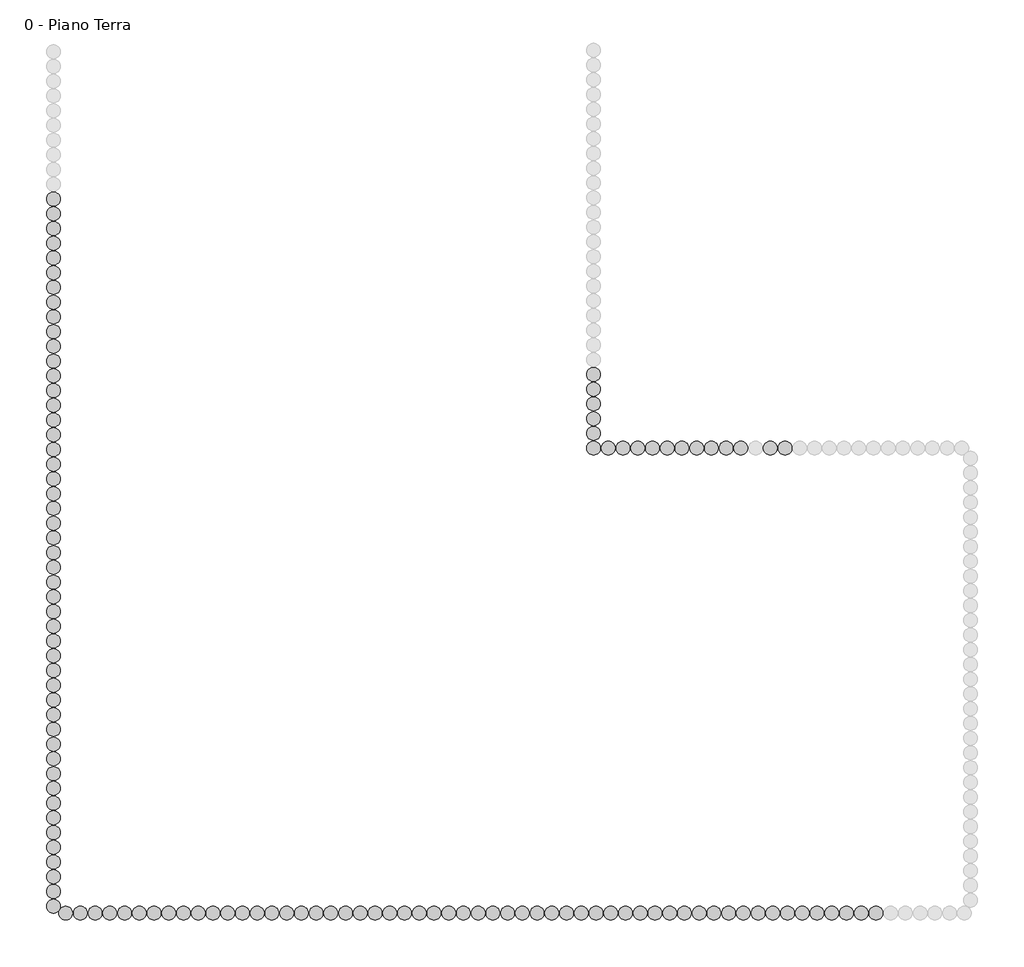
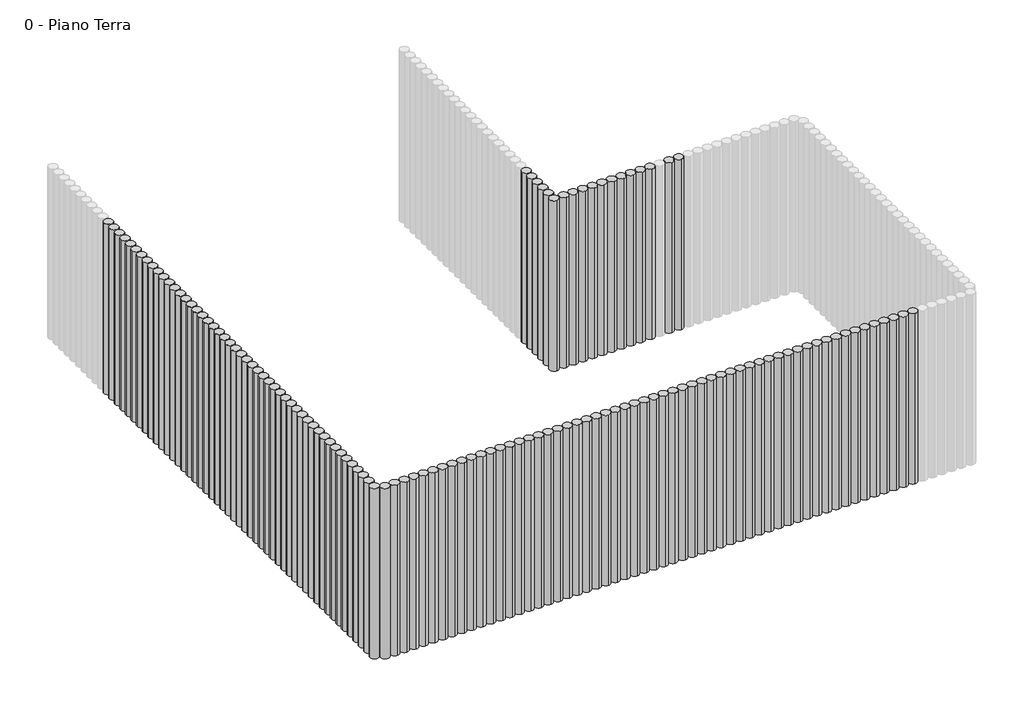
# One storey, part 1 of 2: 123 columns.
"""IFC4 building model written with IfcOpenShell, lengths in millimetres."""

from ifc_helpers import new_model, si_unit, origin, place, context, project, spatial, transform, mapped, element, save
from components import eng_piling_eng_piling_70ba4476

model = new_model("IFC4")

# Units and contexts
model_context = context("Model", 3, world=origin())
ifc_project = project(units=[si_unit("LENGTHUNIT", "METRE", prefix="MILLI")], contexts=[model_context])

# Site, building, storey
site = spatial("IfcSite", under=ifc_project)
building = spatial("IfcBuilding", under=site)
storey = spatial("IfcBuildingStorey", under=building, Name="0 - Piano Terra", Elevation=0.0)

# Columns
placement = place(None, origin())
eng_piling_eng_piling_shape = eng_piling_eng_piling_70ba4476(model_context)
element("IfcColumn", 1, ObjectType="ENG - Piling : ENG - Piling", at=placement, inside=storey, context=model_context, shape_type="MappedRepresentation", body=[
    mapped(eng_piling_eng_piling_shape, transform((-18007.5089367, -15645.7761472, 0.0), x_axis=(1.0, 0.0, 0.0), y_axis=(0.0, 1.0, 0.0), z_axis=(0.0, 0.0, 1.0))),
])
element("IfcColumn", 2, ObjectType="ENG - Piling : ENG - Piling", at=placement, inside=storey, context=model_context, shape_type="MappedRepresentation", body=[
    mapped(eng_piling_eng_piling_shape, transform((-17742.5089367, -15795.7761472, 0.0), x_axis=(1.0, 0.0, 0.0), y_axis=(0.0, 1.0, 0.0), z_axis=(0.0, 0.0, 1.0))),
])
element("IfcColumn", 3, ObjectType="ENG - Piling : ENG - Piling", at=placement, inside=storey, context=model_context, shape_type="MappedRepresentation", body=[
    mapped(eng_piling_eng_piling_shape, transform((-18007.5089367, -15325.7761472, 0.0), x_axis=(1.0, 0.0, 0.0), y_axis=(0.0, 1.0, 0.0), z_axis=(0.0, 0.0, 1.0))),
])
element("IfcColumn", 4, ObjectType="ENG - Piling : ENG - Piling", at=placement, inside=storey, context=model_context, shape_type="MappedRepresentation", body=[
    mapped(eng_piling_eng_piling_shape, transform((-18007.5089367, -15005.7761472, 0.0), x_axis=(1.0, 0.0, 0.0), y_axis=(0.0, 1.0, 0.0), z_axis=(0.0, 0.0, 1.0))),
])
element("IfcColumn", 5, ObjectType="ENG - Piling : ENG - Piling", at=placement, inside=storey, context=model_context, shape_type="MappedRepresentation", body=[
    mapped(eng_piling_eng_piling_shape, transform((-18007.5089367, -14685.7761472, 0.0), x_axis=(1.0, 0.0, 0.0), y_axis=(0.0, 1.0, 0.0), z_axis=(0.0, 0.0, 1.0))),
])
element("IfcColumn", 6, ObjectType="ENG - Piling : ENG - Piling", at=placement, inside=storey, context=model_context, shape_type="MappedRepresentation", body=[
    mapped(eng_piling_eng_piling_shape, transform((-18007.5089367, -14365.7761472, 0.0), x_axis=(1.0, 0.0, 0.0), y_axis=(0.0, 1.0, 0.0), z_axis=(0.0, 0.0, 1.0))),
])
element("IfcColumn", 7, ObjectType="ENG - Piling : ENG - Piling", at=placement, inside=storey, context=model_context, shape_type="MappedRepresentation", body=[
    mapped(eng_piling_eng_piling_shape, transform((-18007.5089367, -14045.7761472, 0.0), x_axis=(1.0, 0.0, 0.0), y_axis=(0.0, 1.0, 0.0), z_axis=(0.0, 0.0, 1.0))),
])
element("IfcColumn", 8, ObjectType="ENG - Piling : ENG - Piling", at=placement, inside=storey, context=model_context, shape_type="MappedRepresentation", body=[
    mapped(eng_piling_eng_piling_shape, transform((-18007.5089367, -13725.7761472, 0.0), x_axis=(1.0, 0.0, 0.0), y_axis=(0.0, 1.0, 0.0), z_axis=(0.0, 0.0, 1.0))),
])
element("IfcColumn", 9, ObjectType="ENG - Piling : ENG - Piling", at=placement, inside=storey, context=model_context, shape_type="MappedRepresentation", body=[
    mapped(eng_piling_eng_piling_shape, transform((-18007.5089367, -13405.7761472, 0.0), x_axis=(1.0, 0.0, 0.0), y_axis=(0.0, 1.0, 0.0), z_axis=(0.0, 0.0, 1.0))),
])
element("IfcColumn", 10, ObjectType="ENG - Piling : ENG - Piling", at=placement, inside=storey, context=model_context, shape_type="MappedRepresentation", body=[
    mapped(eng_piling_eng_piling_shape, transform((-18007.5089367, -13085.7761472, 0.0), x_axis=(1.0, 0.0, 0.0), y_axis=(0.0, 1.0, 0.0), z_axis=(0.0, 0.0, 1.0))),
])
element("IfcColumn", 11, ObjectType="ENG - Piling : ENG - Piling", at=placement, inside=storey, context=model_context, shape_type="MappedRepresentation", body=[
    mapped(eng_piling_eng_piling_shape, transform((-18007.5089367, -12765.7761472, 0.0), x_axis=(1.0, 0.0, 0.0), y_axis=(0.0, 1.0, 0.0), z_axis=(0.0, 0.0, 1.0))),
])
element("IfcColumn", 12, ObjectType="ENG - Piling : ENG - Piling", at=placement, inside=storey, context=model_context, shape_type="MappedRepresentation", body=[
    mapped(eng_piling_eng_piling_shape, transform((-18007.5089367, -12445.7761472, 0.0), x_axis=(1.0, 0.0, 0.0), y_axis=(0.0, 1.0, 0.0), z_axis=(0.0, 0.0, 1.0))),
])
element("IfcColumn", 13, ObjectType="ENG - Piling : ENG - Piling", at=placement, inside=storey, context=model_context, shape_type="MappedRepresentation", body=[
    mapped(eng_piling_eng_piling_shape, transform((-18007.5089367, -12125.7761472, 0.0), x_axis=(1.0, 0.0, 0.0), y_axis=(0.0, 1.0, 0.0), z_axis=(0.0, 0.0, 1.0))),
])
element("IfcColumn", 14, ObjectType="ENG - Piling : ENG - Piling", at=placement, inside=storey, context=model_context, shape_type="MappedRepresentation", body=[
    mapped(eng_piling_eng_piling_shape, transform((-18007.5089367, -11805.7761472, 0.0), x_axis=(1.0, 0.0, 0.0), y_axis=(0.0, 1.0, 0.0), z_axis=(0.0, 0.0, 1.0))),
])
element("IfcColumn", 15, ObjectType="ENG - Piling : ENG - Piling", at=placement, inside=storey, context=model_context, shape_type="MappedRepresentation", body=[
    mapped(eng_piling_eng_piling_shape, transform((-18007.5089367, -11485.7761472, 0.0), x_axis=(1.0, 0.0, 0.0), y_axis=(0.0, 1.0, 0.0), z_axis=(0.0, 0.0, 1.0))),
])
element("IfcColumn", 16, ObjectType="ENG - Piling : ENG - Piling", at=placement, inside=storey, context=model_context, shape_type="MappedRepresentation", body=[
    mapped(eng_piling_eng_piling_shape, transform((-18007.5089367, -11165.7761472, 0.0), x_axis=(1.0, 0.0, 0.0), y_axis=(0.0, 1.0, 0.0), z_axis=(0.0, 0.0, 1.0))),
])
element("IfcColumn", 17, ObjectType="ENG - Piling : ENG - Piling", at=placement, inside=storey, context=model_context, shape_type="MappedRepresentation", body=[
    mapped(eng_piling_eng_piling_shape, transform((-18007.5089367, -10845.7761472, 0.0), x_axis=(1.0, 0.0, 0.0), y_axis=(0.0, 1.0, 0.0), z_axis=(0.0, 0.0, 1.0))),
])
element("IfcColumn", 18, ObjectType="ENG - Piling : ENG - Piling", at=placement, inside=storey, context=model_context, shape_type="MappedRepresentation", body=[
    mapped(eng_piling_eng_piling_shape, transform((-18007.5089367, -10525.7761472, 0.0), x_axis=(1.0, 0.0, 0.0), y_axis=(0.0, 1.0, 0.0), z_axis=(0.0, 0.0, 1.0))),
])
element("IfcColumn", 19, ObjectType="ENG - Piling : ENG - Piling", at=placement, inside=storey, context=model_context, shape_type="MappedRepresentation", body=[
    mapped(eng_piling_eng_piling_shape, transform((-18007.5089367, -10205.7761472, 0.0), x_axis=(1.0, 0.0, 0.0), y_axis=(0.0, 1.0, 0.0), z_axis=(0.0, 0.0, 1.0))),
])
element("IfcColumn", 20, ObjectType="ENG - Piling : ENG - Piling", at=placement, inside=storey, context=model_context, shape_type="MappedRepresentation", body=[
    mapped(eng_piling_eng_piling_shape, transform((-18007.5089367, -9885.7761472, 0.0), x_axis=(1.0, 0.0, 0.0), y_axis=(0.0, 1.0, 0.0), z_axis=(0.0, 0.0, 1.0))),
])
element("IfcColumn", 21, ObjectType="ENG - Piling : ENG - Piling", at=placement, inside=storey, context=model_context, shape_type="MappedRepresentation", body=[
    mapped(eng_piling_eng_piling_shape, transform((-18007.5089367, -9565.7761472, 0.0), x_axis=(1.0, 0.0, 0.0), y_axis=(0.0, 1.0, 0.0), z_axis=(0.0, 0.0, 1.0))),
])
element("IfcColumn", 22, ObjectType="ENG - Piling : ENG - Piling", at=placement, inside=storey, context=model_context, shape_type="MappedRepresentation", body=[
    mapped(eng_piling_eng_piling_shape, transform((-18007.5089367, -9245.7761472, 0.0), x_axis=(1.0, 0.0, 0.0), y_axis=(0.0, 1.0, 0.0), z_axis=(0.0, 0.0, 1.0))),
])
element("IfcColumn", 23, ObjectType="ENG - Piling : ENG - Piling", at=placement, inside=storey, context=model_context, shape_type="MappedRepresentation", body=[
    mapped(eng_piling_eng_piling_shape, transform((-18007.5089367, -8925.7761472, 0.0), x_axis=(1.0, 0.0, 0.0), y_axis=(0.0, 1.0, 0.0), z_axis=(0.0, 0.0, 1.0))),
])
element("IfcColumn", 24, ObjectType="ENG - Piling : ENG - Piling", at=placement, inside=storey, context=model_context, shape_type="MappedRepresentation", body=[
    mapped(eng_piling_eng_piling_shape, transform((-18007.5089367, -8605.7761472, 0.0), x_axis=(1.0, 0.0, 0.0), y_axis=(0.0, 1.0, 0.0), z_axis=(0.0, 0.0, 1.0))),
])
element("IfcColumn", 25, ObjectType="ENG - Piling : ENG - Piling", at=placement, inside=storey, context=model_context, shape_type="MappedRepresentation", body=[
    mapped(eng_piling_eng_piling_shape, transform((-18007.5089367, -8285.7761472, 0.0), x_axis=(1.0, 0.0, 0.0), y_axis=(0.0, 1.0, 0.0), z_axis=(0.0, 0.0, 1.0))),
])
element("IfcColumn", 26, ObjectType="ENG - Piling : ENG - Piling", at=placement, inside=storey, context=model_context, shape_type="MappedRepresentation", body=[
    mapped(eng_piling_eng_piling_shape, transform((-18007.5089367, -7965.7761472, 0.0), x_axis=(1.0, 0.0, 0.0), y_axis=(0.0, 1.0, 0.0), z_axis=(0.0, 0.0, 1.0))),
])
element("IfcColumn", 27, ObjectType="ENG - Piling : ENG - Piling", at=placement, inside=storey, context=model_context, shape_type="MappedRepresentation", body=[
    mapped(eng_piling_eng_piling_shape, transform((-18007.5089367, -7645.7761472, 0.0), x_axis=(1.0, 0.0, 0.0), y_axis=(0.0, 1.0, 0.0), z_axis=(0.0, 0.0, 1.0))),
])
element("IfcColumn", 28, ObjectType="ENG - Piling : ENG - Piling", at=placement, inside=storey, context=model_context, shape_type="MappedRepresentation", body=[
    mapped(eng_piling_eng_piling_shape, transform((-18007.5089367, -7325.7761472, 0.0), x_axis=(1.0, 0.0, 0.0), y_axis=(0.0, 1.0, 0.0), z_axis=(0.0, 0.0, 1.0))),
])
element("IfcColumn", 29, ObjectType="ENG - Piling : ENG - Piling", at=placement, inside=storey, context=model_context, shape_type="MappedRepresentation", body=[
    mapped(eng_piling_eng_piling_shape, transform((-18007.5089367, -7005.7761472, 0.0), x_axis=(1.0, 0.0, 0.0), y_axis=(0.0, 1.0, 0.0), z_axis=(0.0, 0.0, 1.0))),
])
element("IfcColumn", 30, ObjectType="ENG - Piling : ENG - Piling", at=placement, inside=storey, context=model_context, shape_type="MappedRepresentation", body=[
    mapped(eng_piling_eng_piling_shape, transform((-18007.5089367, -6685.7761472, 0.0), x_axis=(1.0, 0.0, 0.0), y_axis=(0.0, 1.0, 0.0), z_axis=(0.0, 0.0, 1.0))),
])
element("IfcColumn", 31, ObjectType="ENG - Piling : ENG - Piling", at=placement, inside=storey, context=model_context, shape_type="MappedRepresentation", body=[
    mapped(eng_piling_eng_piling_shape, transform((-18007.5089367, -6365.7761472, 0.0), x_axis=(1.0, 0.0, 0.0), y_axis=(0.0, 1.0, 0.0), z_axis=(0.0, 0.0, 1.0))),
])
element("IfcColumn", 32, ObjectType="ENG - Piling : ENG - Piling", at=placement, inside=storey, context=model_context, shape_type="MappedRepresentation", body=[
    mapped(eng_piling_eng_piling_shape, transform((-18007.5089367, -6045.7761472, 0.0), x_axis=(1.0, 0.0, 0.0), y_axis=(0.0, 1.0, 0.0), z_axis=(0.0, 0.0, 1.0))),
])
element("IfcColumn", 33, ObjectType="ENG - Piling : ENG - Piling", at=placement, inside=storey, context=model_context, shape_type="MappedRepresentation", body=[
    mapped(eng_piling_eng_piling_shape, transform((-18007.5089367, -5725.7761472, 0.0), x_axis=(1.0, 0.0, 0.0), y_axis=(0.0, 1.0, 0.0), z_axis=(0.0, 0.0, 1.0))),
])
element("IfcColumn", 34, ObjectType="ENG - Piling : ENG - Piling", at=placement, inside=storey, context=model_context, shape_type="MappedRepresentation", body=[
    mapped(eng_piling_eng_piling_shape, transform((-18007.5089367, -5405.7761472, 0.0), x_axis=(1.0, 0.0, 0.0), y_axis=(0.0, 1.0, 0.0), z_axis=(0.0, 0.0, 1.0))),
])
element("IfcColumn", 35, ObjectType="ENG - Piling : ENG - Piling", at=placement, inside=storey, context=model_context, shape_type="MappedRepresentation", body=[
    mapped(eng_piling_eng_piling_shape, transform((-18007.5089367, -5085.7761472, 0.0), x_axis=(1.0, 0.0, 0.0), y_axis=(0.0, 1.0, 0.0), z_axis=(0.0, 0.0, 1.0))),
])
element("IfcColumn", 36, ObjectType="ENG - Piling : ENG - Piling", at=placement, inside=storey, context=model_context, shape_type="MappedRepresentation", body=[
    mapped(eng_piling_eng_piling_shape, transform((-18007.5089367, -4765.7761472, 0.0), x_axis=(1.0, 0.0, 0.0), y_axis=(0.0, 1.0, 0.0), z_axis=(0.0, 0.0, 1.0))),
])
element("IfcColumn", 37, ObjectType="ENG - Piling : ENG - Piling", at=placement, inside=storey, context=model_context, shape_type="MappedRepresentation", body=[
    mapped(eng_piling_eng_piling_shape, transform((-18007.5089367, -4445.7761472, 0.0), x_axis=(1.0, 0.0, 0.0), y_axis=(0.0, 1.0, 0.0), z_axis=(0.0, 0.0, 1.0))),
])
element("IfcColumn", 38, ObjectType="ENG - Piling : ENG - Piling", at=placement, inside=storey, context=model_context, shape_type="MappedRepresentation", body=[
    mapped(eng_piling_eng_piling_shape, transform((-18007.5089367, -4125.7761472, 0.0), x_axis=(1.0, 0.0, 0.0), y_axis=(0.0, 1.0, 0.0), z_axis=(0.0, 0.0, 1.0))),
])
element("IfcColumn", 39, ObjectType="ENG - Piling : ENG - Piling", at=placement, inside=storey, context=model_context, shape_type="MappedRepresentation", body=[
    mapped(eng_piling_eng_piling_shape, transform((-18007.5089367, -3805.7761472, 0.0), x_axis=(1.0, 0.0, 0.0), y_axis=(0.0, 1.0, 0.0), z_axis=(0.0, 0.0, 1.0))),
])
element("IfcColumn", 40, ObjectType="ENG - Piling : ENG - Piling", at=placement, inside=storey, context=model_context, shape_type="MappedRepresentation", body=[
    mapped(eng_piling_eng_piling_shape, transform((-18007.5089367, -3485.7761472, 0.0), x_axis=(1.0, 0.0, 0.0), y_axis=(0.0, 1.0, 0.0), z_axis=(0.0, 0.0, 1.0))),
])
element("IfcColumn", 41, ObjectType="ENG - Piling : ENG - Piling", at=placement, inside=storey, context=model_context, shape_type="MappedRepresentation", body=[
    mapped(eng_piling_eng_piling_shape, transform((-18007.5089367, -3165.7761472, 0.0), x_axis=(1.0, 0.0, 0.0), y_axis=(0.0, 1.0, 0.0), z_axis=(0.0, 0.0, 1.0))),
])
element("IfcColumn", 42, ObjectType="ENG - Piling : ENG - Piling", at=placement, inside=storey, context=model_context, shape_type="MappedRepresentation", body=[
    mapped(eng_piling_eng_piling_shape, transform((-18007.5089367, -2845.7761472, 0.0), x_axis=(1.0, 0.0, 0.0), y_axis=(0.0, 1.0, 0.0), z_axis=(0.0, 0.0, 1.0))),
])
element("IfcColumn", 43, ObjectType="ENG - Piling : ENG - Piling", at=placement, inside=storey, context=model_context, shape_type="MappedRepresentation", body=[
    mapped(eng_piling_eng_piling_shape, transform((-18007.5089367, -2525.7761472, 0.0), x_axis=(1.0, 0.0, 0.0), y_axis=(0.0, 1.0, 0.0), z_axis=(0.0, 0.0, 1.0))),
])
element("IfcColumn", 44, ObjectType="ENG - Piling : ENG - Piling", at=placement, inside=storey, context=model_context, shape_type="MappedRepresentation", body=[
    mapped(eng_piling_eng_piling_shape, transform((-18007.5089367, -2205.7761472, 0.0), x_axis=(1.0, 0.0, 0.0), y_axis=(0.0, 1.0, 0.0), z_axis=(0.0, 0.0, 1.0))),
])
element("IfcColumn", 45, ObjectType="ENG - Piling : ENG - Piling", at=placement, inside=storey, context=model_context, shape_type="MappedRepresentation", body=[
    mapped(eng_piling_eng_piling_shape, transform((-18007.5089367, -1885.7761472, 0.0), x_axis=(1.0, 0.0, 0.0), y_axis=(0.0, 1.0, 0.0), z_axis=(0.0, 0.0, 1.0))),
])
element("IfcColumn", 46, ObjectType="ENG - Piling : ENG - Piling", at=placement, inside=storey, context=model_context, shape_type="MappedRepresentation", body=[
    mapped(eng_piling_eng_piling_shape, transform((-18007.5089367, -1565.7761472, 0.0), x_axis=(1.0, 0.0, 0.0), y_axis=(0.0, 1.0, 0.0), z_axis=(0.0, 0.0, 1.0))),
])
element("IfcColumn", 47, ObjectType="ENG - Piling : ENG - Piling", at=placement, inside=storey, context=model_context, shape_type="MappedRepresentation", body=[
    mapped(eng_piling_eng_piling_shape, transform((-18007.5089367, -1245.7761472, 0.0), x_axis=(1.0, 0.0, 0.0), y_axis=(0.0, 1.0, 0.0), z_axis=(0.0, 0.0, 1.0))),
])
element("IfcColumn", 48, ObjectType="ENG - Piling : ENG - Piling", at=placement, inside=storey, context=model_context, shape_type="MappedRepresentation", body=[
    mapped(eng_piling_eng_piling_shape, transform((-18007.5089367, -925.7761472, 0.0), x_axis=(1.0, 0.0, 0.0), y_axis=(0.0, 1.0, 0.0), z_axis=(0.0, 0.0, 1.0))),
])
element("IfcColumn", 49, ObjectType="ENG - Piling : ENG - Piling", at=placement, inside=storey, context=model_context, shape_type="MappedRepresentation", body=[
    mapped(eng_piling_eng_piling_shape, transform((-18007.5089367, -605.7761472, 0.0), x_axis=(1.0, 0.0, 0.0), y_axis=(0.0, 1.0, 0.0), z_axis=(0.0, 0.0, 1.0))),
])
element("IfcColumn", 50, ObjectType="ENG - Piling : ENG - Piling", at=placement, inside=storey, context=model_context, shape_type="MappedRepresentation", body=[
    mapped(eng_piling_eng_piling_shape, transform((-18007.5089367, -285.7761472, 0.0), x_axis=(1.0, 0.0, 0.0), y_axis=(0.0, 1.0, 0.0), z_axis=(0.0, 0.0, 1.0))),
])
element("IfcColumn", 51, ObjectType="ENG - Piling : ENG - Piling", at=placement, inside=storey, context=model_context, shape_type="MappedRepresentation", body=[
    mapped(eng_piling_eng_piling_shape, transform((-142.5089367, -15795.7761472, 0.0), x_axis=(0.0, 1.0000000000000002, 0.0), y_axis=(-1.0000000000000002, 0.0, 0.0), z_axis=(0.0, 0.0, 1.0))),
])
element("IfcColumn", 52, ObjectType="ENG - Piling : ENG - Piling", at=placement, inside=storey, context=model_context, shape_type="MappedRepresentation", body=[
    mapped(eng_piling_eng_piling_shape, transform((-462.5089367, -15795.7761472, 0.0), x_axis=(0.0, 1.0000000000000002, 0.0), y_axis=(-1.0000000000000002, 0.0, 0.0), z_axis=(0.0, 0.0, 1.0))),
])
element("IfcColumn", 53, ObjectType="ENG - Piling : ENG - Piling", at=placement, inside=storey, context=model_context, shape_type="MappedRepresentation", body=[
    mapped(eng_piling_eng_piling_shape, transform((-782.5089367, -15795.7761472, 0.0), x_axis=(0.0, 1.0000000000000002, 0.0), y_axis=(-1.0000000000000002, 0.0, 0.0), z_axis=(0.0, 0.0, 1.0))),
])
element("IfcColumn", 54, ObjectType="ENG - Piling : ENG - Piling", at=placement, inside=storey, context=model_context, shape_type="MappedRepresentation", body=[
    mapped(eng_piling_eng_piling_shape, transform((-1102.5089367, -15795.7761472, 0.0), x_axis=(0.0, 1.0000000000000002, 0.0), y_axis=(-1.0000000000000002, 0.0, 0.0), z_axis=(0.0, 0.0, 1.0))),
])
element("IfcColumn", 55, ObjectType="ENG - Piling : ENG - Piling", at=placement, inside=storey, context=model_context, shape_type="MappedRepresentation", body=[
    mapped(eng_piling_eng_piling_shape, transform((-1422.5089367, -15795.7761472, 0.0), x_axis=(0.0, 1.0000000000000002, 0.0), y_axis=(-1.0000000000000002, 0.0, 0.0), z_axis=(0.0, 0.0, 1.0))),
])
element("IfcColumn", 56, ObjectType="ENG - Piling : ENG - Piling", at=placement, inside=storey, context=model_context, shape_type="MappedRepresentation", body=[
    mapped(eng_piling_eng_piling_shape, transform((-1742.5089367, -15795.7761472, 0.0), x_axis=(0.0, 1.0000000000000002, 0.0), y_axis=(-1.0000000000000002, 0.0, 0.0), z_axis=(0.0, 0.0, 1.0))),
])
element("IfcColumn", 57, ObjectType="ENG - Piling : ENG - Piling", at=placement, inside=storey, context=model_context, shape_type="MappedRepresentation", body=[
    mapped(eng_piling_eng_piling_shape, transform((-2062.5089367, -15795.7761472, 0.0), x_axis=(0.0, 1.0000000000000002, 0.0), y_axis=(-1.0000000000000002, 0.0, 0.0), z_axis=(0.0, 0.0, 1.0))),
])
element("IfcColumn", 58, ObjectType="ENG - Piling : ENG - Piling", at=placement, inside=storey, context=model_context, shape_type="MappedRepresentation", body=[
    mapped(eng_piling_eng_piling_shape, transform((-2382.5089367, -15795.7761472, 0.0), x_axis=(0.0, 1.0000000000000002, 0.0), y_axis=(-1.0000000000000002, 0.0, 0.0), z_axis=(0.0, 0.0, 1.0))),
])
element("IfcColumn", 59, ObjectType="ENG - Piling : ENG - Piling", at=placement, inside=storey, context=model_context, shape_type="MappedRepresentation", body=[
    mapped(eng_piling_eng_piling_shape, transform((-2702.5089367, -15795.7761472, 0.0), x_axis=(0.0, 1.0000000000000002, 0.0), y_axis=(-1.0000000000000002, 0.0, 0.0), z_axis=(0.0, 0.0, 1.0))),
])
element("IfcColumn", 60, ObjectType="ENG - Piling : ENG - Piling", at=placement, inside=storey, context=model_context, shape_type="MappedRepresentation", body=[
    mapped(eng_piling_eng_piling_shape, transform((-3022.5089367, -15795.7761472, 0.0), x_axis=(0.0, 1.0000000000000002, 0.0), y_axis=(-1.0000000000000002, 0.0, 0.0), z_axis=(0.0, 0.0, 1.0))),
])
element("IfcColumn", 61, ObjectType="ENG - Piling : ENG - Piling", at=placement, inside=storey, context=model_context, shape_type="MappedRepresentation", body=[
    mapped(eng_piling_eng_piling_shape, transform((-3342.5089367, -15795.7761472, 0.0), x_axis=(0.0, 1.0000000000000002, 0.0), y_axis=(-1.0000000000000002, 0.0, 0.0), z_axis=(0.0, 0.0, 1.0))),
])
element("IfcColumn", 62, ObjectType="ENG - Piling : ENG - Piling", at=placement, inside=storey, context=model_context, shape_type="MappedRepresentation", body=[
    mapped(eng_piling_eng_piling_shape, transform((-3662.5089367, -15795.7761472, 0.0), x_axis=(0.0, 1.0000000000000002, 0.0), y_axis=(-1.0000000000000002, 0.0, 0.0), z_axis=(0.0, 0.0, 1.0))),
])
element("IfcColumn", 63, ObjectType="ENG - Piling : ENG - Piling", at=placement, inside=storey, context=model_context, shape_type="MappedRepresentation", body=[
    mapped(eng_piling_eng_piling_shape, transform((-3982.5089367, -15795.7761472, 0.0), x_axis=(0.0, 1.0000000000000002, 0.0), y_axis=(-1.0000000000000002, 0.0, 0.0), z_axis=(0.0, 0.0, 1.0))),
])
element("IfcColumn", 64, ObjectType="ENG - Piling : ENG - Piling", at=placement, inside=storey, context=model_context, shape_type="MappedRepresentation", body=[
    mapped(eng_piling_eng_piling_shape, transform((-4302.5089367, -15795.7761472, 0.0), x_axis=(0.0, 1.0000000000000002, 0.0), y_axis=(-1.0000000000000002, 0.0, 0.0), z_axis=(0.0, 0.0, 1.0))),
])
element("IfcColumn", 65, ObjectType="ENG - Piling : ENG - Piling", at=placement, inside=storey, context=model_context, shape_type="MappedRepresentation", body=[
    mapped(eng_piling_eng_piling_shape, transform((-4622.5089367, -15795.7761472, 0.0), x_axis=(0.0, 1.0000000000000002, 0.0), y_axis=(-1.0000000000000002, 0.0, 0.0), z_axis=(0.0, 0.0, 1.0))),
])
element("IfcColumn", 66, ObjectType="ENG - Piling : ENG - Piling", at=placement, inside=storey, context=model_context, shape_type="MappedRepresentation", body=[
    mapped(eng_piling_eng_piling_shape, transform((-4942.5089367, -15795.7761472, 0.0), x_axis=(0.0, 1.0000000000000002, 0.0), y_axis=(-1.0000000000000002, 0.0, 0.0), z_axis=(0.0, 0.0, 1.0))),
])
element("IfcColumn", 67, ObjectType="ENG - Piling : ENG - Piling", at=placement, inside=storey, context=model_context, shape_type="MappedRepresentation", body=[
    mapped(eng_piling_eng_piling_shape, transform((-5262.5089367, -15795.7761472, 0.0), x_axis=(0.0, 1.0000000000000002, 0.0), y_axis=(-1.0000000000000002, 0.0, 0.0), z_axis=(0.0, 0.0, 1.0))),
])
element("IfcColumn", 68, ObjectType="ENG - Piling : ENG - Piling", at=placement, inside=storey, context=model_context, shape_type="MappedRepresentation", body=[
    mapped(eng_piling_eng_piling_shape, transform((-5582.5089367, -15795.7761472, 0.0), x_axis=(0.0, 1.0000000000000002, 0.0), y_axis=(-1.0000000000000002, 0.0, 0.0), z_axis=(0.0, 0.0, 1.0))),
])
element("IfcColumn", 69, ObjectType="ENG - Piling : ENG - Piling", at=placement, inside=storey, context=model_context, shape_type="MappedRepresentation", body=[
    mapped(eng_piling_eng_piling_shape, transform((-5902.5089367, -15795.7761472, 0.0), x_axis=(0.0, 1.0000000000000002, 0.0), y_axis=(-1.0000000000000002, 0.0, 0.0), z_axis=(0.0, 0.0, 1.0))),
])
element("IfcColumn", 70, ObjectType="ENG - Piling : ENG - Piling", at=placement, inside=storey, context=model_context, shape_type="MappedRepresentation", body=[
    mapped(eng_piling_eng_piling_shape, transform((-6222.5089367, -15795.7761472, 0.0), x_axis=(0.0, 1.0000000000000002, 0.0), y_axis=(-1.0000000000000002, 0.0, 0.0), z_axis=(0.0, 0.0, 1.0))),
])
element("IfcColumn", 71, ObjectType="ENG - Piling : ENG - Piling", at=placement, inside=storey, context=model_context, shape_type="MappedRepresentation", body=[
    mapped(eng_piling_eng_piling_shape, transform((-6542.5089367, -15795.7761472, 0.0), x_axis=(0.0, 1.0000000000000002, 0.0), y_axis=(-1.0000000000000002, 0.0, 0.0), z_axis=(0.0, 0.0, 1.0))),
])
element("IfcColumn", 72, ObjectType="ENG - Piling : ENG - Piling", at=placement, inside=storey, context=model_context, shape_type="MappedRepresentation", body=[
    mapped(eng_piling_eng_piling_shape, transform((-6862.5089367, -15795.7761472, 0.0), x_axis=(0.0, 1.0000000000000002, 0.0), y_axis=(-1.0000000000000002, 0.0, 0.0), z_axis=(0.0, 0.0, 1.0))),
])
element("IfcColumn", 73, ObjectType="ENG - Piling : ENG - Piling", at=placement, inside=storey, context=model_context, shape_type="MappedRepresentation", body=[
    mapped(eng_piling_eng_piling_shape, transform((-7182.5089367, -15795.7761472, 0.0), x_axis=(0.0, 1.0000000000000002, 0.0), y_axis=(-1.0000000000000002, 0.0, 0.0), z_axis=(0.0, 0.0, 1.0))),
])
element("IfcColumn", 74, ObjectType="ENG - Piling : ENG - Piling", at=placement, inside=storey, context=model_context, shape_type="MappedRepresentation", body=[
    mapped(eng_piling_eng_piling_shape, transform((-7502.5089367, -15795.7761472, 0.0), x_axis=(0.0, 1.0000000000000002, 0.0), y_axis=(-1.0000000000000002, 0.0, 0.0), z_axis=(0.0, 0.0, 1.0))),
])
element("IfcColumn", 75, ObjectType="ENG - Piling : ENG - Piling", at=placement, inside=storey, context=model_context, shape_type="MappedRepresentation", body=[
    mapped(eng_piling_eng_piling_shape, transform((-7822.5089367, -15795.7761472, 0.0), x_axis=(0.0, 1.0000000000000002, 0.0), y_axis=(-1.0000000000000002, 0.0, 0.0), z_axis=(0.0, 0.0, 1.0))),
])
element("IfcColumn", 76, ObjectType="ENG - Piling : ENG - Piling", at=placement, inside=storey, context=model_context, shape_type="MappedRepresentation", body=[
    mapped(eng_piling_eng_piling_shape, transform((-8142.5089367, -15795.7761472, 0.0), x_axis=(0.0, 1.0000000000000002, 0.0), y_axis=(-1.0000000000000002, 0.0, 0.0), z_axis=(0.0, 0.0, 1.0))),
])
element("IfcColumn", 77, ObjectType="ENG - Piling : ENG - Piling", at=placement, inside=storey, context=model_context, shape_type="MappedRepresentation", body=[
    mapped(eng_piling_eng_piling_shape, transform((-8462.5089367, -15795.7761472, 0.0), x_axis=(0.0, 1.0000000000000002, 0.0), y_axis=(-1.0000000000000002, 0.0, 0.0), z_axis=(0.0, 0.0, 1.0))),
])
element("IfcColumn", 78, ObjectType="ENG - Piling : ENG - Piling", at=placement, inside=storey, context=model_context, shape_type="MappedRepresentation", body=[
    mapped(eng_piling_eng_piling_shape, transform((-8782.5089367, -15795.7761472, 0.0), x_axis=(0.0, 1.0000000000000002, 0.0), y_axis=(-1.0000000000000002, 0.0, 0.0), z_axis=(0.0, 0.0, 1.0))),
])
element("IfcColumn", 79, ObjectType="ENG - Piling : ENG - Piling", at=placement, inside=storey, context=model_context, shape_type="MappedRepresentation", body=[
    mapped(eng_piling_eng_piling_shape, transform((-9102.5089367, -15795.7761472, 0.0), x_axis=(0.0, 1.0000000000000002, 0.0), y_axis=(-1.0000000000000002, 0.0, 0.0), z_axis=(0.0, 0.0, 1.0))),
])
element("IfcColumn", 80, ObjectType="ENG - Piling : ENG - Piling", at=placement, inside=storey, context=model_context, shape_type="MappedRepresentation", body=[
    mapped(eng_piling_eng_piling_shape, transform((-9422.5089367, -15795.7761472, 0.0), x_axis=(0.0, 1.0000000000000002, 0.0), y_axis=(-1.0000000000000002, 0.0, 0.0), z_axis=(0.0, 0.0, 1.0))),
])
element("IfcColumn", 81, ObjectType="ENG - Piling : ENG - Piling", at=placement, inside=storey, context=model_context, shape_type="MappedRepresentation", body=[
    mapped(eng_piling_eng_piling_shape, transform((-9742.5089367, -15795.7761472, 0.0), x_axis=(0.0, 1.0000000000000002, 0.0), y_axis=(-1.0000000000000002, 0.0, 0.0), z_axis=(0.0, 0.0, 1.0))),
])
element("IfcColumn", 82, ObjectType="ENG - Piling : ENG - Piling", at=placement, inside=storey, context=model_context, shape_type="MappedRepresentation", body=[
    mapped(eng_piling_eng_piling_shape, transform((-10062.5089367, -15795.7761472, 0.0), x_axis=(0.0, 1.0000000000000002, 0.0), y_axis=(-1.0000000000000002, 0.0, 0.0), z_axis=(0.0, 0.0, 1.0))),
])
element("IfcColumn", 83, ObjectType="ENG - Piling : ENG - Piling", at=placement, inside=storey, context=model_context, shape_type="MappedRepresentation", body=[
    mapped(eng_piling_eng_piling_shape, transform((-10382.5089367, -15795.7761472, 0.0), x_axis=(0.0, 1.0000000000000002, 0.0), y_axis=(-1.0000000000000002, 0.0, 0.0), z_axis=(0.0, 0.0, 1.0))),
])
element("IfcColumn", 84, ObjectType="ENG - Piling : ENG - Piling", at=placement, inside=storey, context=model_context, shape_type="MappedRepresentation", body=[
    mapped(eng_piling_eng_piling_shape, transform((-10702.5089367, -15795.7761472, 0.0), x_axis=(0.0, 1.0000000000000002, 0.0), y_axis=(-1.0000000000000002, 0.0, 0.0), z_axis=(0.0, 0.0, 1.0))),
])
element("IfcColumn", 85, ObjectType="ENG - Piling : ENG - Piling", at=placement, inside=storey, context=model_context, shape_type="MappedRepresentation", body=[
    mapped(eng_piling_eng_piling_shape, transform((-11022.5089367, -15795.7761472, 0.0), x_axis=(0.0, 1.0000000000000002, 0.0), y_axis=(-1.0000000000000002, 0.0, 0.0), z_axis=(0.0, 0.0, 1.0))),
])
element("IfcColumn", 86, ObjectType="ENG - Piling : ENG - Piling", at=placement, inside=storey, context=model_context, shape_type="MappedRepresentation", body=[
    mapped(eng_piling_eng_piling_shape, transform((-11342.5089367, -15795.7761472, 0.0), x_axis=(0.0, 1.0000000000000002, 0.0), y_axis=(-1.0000000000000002, 0.0, 0.0), z_axis=(0.0, 0.0, 1.0))),
])
element("IfcColumn", 87, ObjectType="ENG - Piling : ENG - Piling", at=placement, inside=storey, context=model_context, shape_type="MappedRepresentation", body=[
    mapped(eng_piling_eng_piling_shape, transform((-11662.5089367, -15795.7761472, 0.0), x_axis=(0.0, 1.0000000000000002, 0.0), y_axis=(-1.0000000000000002, 0.0, 0.0), z_axis=(0.0, 0.0, 1.0))),
])
element("IfcColumn", 88, ObjectType="ENG - Piling : ENG - Piling", at=placement, inside=storey, context=model_context, shape_type="MappedRepresentation", body=[
    mapped(eng_piling_eng_piling_shape, transform((-11982.5089367, -15795.7761472, 0.0), x_axis=(0.0, 1.0000000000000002, 0.0), y_axis=(-1.0000000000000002, 0.0, 0.0), z_axis=(0.0, 0.0, 1.0))),
])
element("IfcColumn", 89, ObjectType="ENG - Piling : ENG - Piling", at=placement, inside=storey, context=model_context, shape_type="MappedRepresentation", body=[
    mapped(eng_piling_eng_piling_shape, transform((-12302.5089367, -15795.7761472, 0.0), x_axis=(0.0, 1.0000000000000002, 0.0), y_axis=(-1.0000000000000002, 0.0, 0.0), z_axis=(0.0, 0.0, 1.0))),
])
element("IfcColumn", 90, ObjectType="ENG - Piling : ENG - Piling", at=placement, inside=storey, context=model_context, shape_type="MappedRepresentation", body=[
    mapped(eng_piling_eng_piling_shape, transform((-12622.5089367, -15795.7761472, 0.0), x_axis=(0.0, 1.0000000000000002, 0.0), y_axis=(-1.0000000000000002, 0.0, 0.0), z_axis=(0.0, 0.0, 1.0))),
])
element("IfcColumn", 91, ObjectType="ENG - Piling : ENG - Piling", at=placement, inside=storey, context=model_context, shape_type="MappedRepresentation", body=[
    mapped(eng_piling_eng_piling_shape, transform((-12942.5089367, -15795.7761472, 0.0), x_axis=(0.0, 1.0000000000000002, 0.0), y_axis=(-1.0000000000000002, 0.0, 0.0), z_axis=(0.0, 0.0, 1.0))),
])
element("IfcColumn", 92, ObjectType="ENG - Piling : ENG - Piling", at=placement, inside=storey, context=model_context, shape_type="MappedRepresentation", body=[
    mapped(eng_piling_eng_piling_shape, transform((-13262.5089367, -15795.7761472, 0.0), x_axis=(0.0, 1.0000000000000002, 0.0), y_axis=(-1.0000000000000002, 0.0, 0.0), z_axis=(0.0, 0.0, 1.0))),
])
element("IfcColumn", 93, ObjectType="ENG - Piling : ENG - Piling", at=placement, inside=storey, context=model_context, shape_type="MappedRepresentation", body=[
    mapped(eng_piling_eng_piling_shape, transform((-13582.5089367, -15795.7761472, 0.0), x_axis=(0.0, 1.0000000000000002, 0.0), y_axis=(-1.0000000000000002, 0.0, 0.0), z_axis=(0.0, 0.0, 1.0))),
])
element("IfcColumn", 94, ObjectType="ENG - Piling : ENG - Piling", at=placement, inside=storey, context=model_context, shape_type="MappedRepresentation", body=[
    mapped(eng_piling_eng_piling_shape, transform((-13902.5089367, -15795.7761472, 0.0), x_axis=(0.0, 1.0000000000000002, 0.0), y_axis=(-1.0000000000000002, 0.0, 0.0), z_axis=(0.0, 0.0, 1.0))),
])
element("IfcColumn", 95, ObjectType="ENG - Piling : ENG - Piling", at=placement, inside=storey, context=model_context, shape_type="MappedRepresentation", body=[
    mapped(eng_piling_eng_piling_shape, transform((-14222.5089367, -15795.7761472, 0.0), x_axis=(0.0, 1.0000000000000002, 0.0), y_axis=(-1.0000000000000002, 0.0, 0.0), z_axis=(0.0, 0.0, 1.0))),
])
element("IfcColumn", 96, ObjectType="ENG - Piling : ENG - Piling", at=placement, inside=storey, context=model_context, shape_type="MappedRepresentation", body=[
    mapped(eng_piling_eng_piling_shape, transform((-14542.5089367, -15795.7761472, 0.0), x_axis=(0.0, 1.0000000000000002, 0.0), y_axis=(-1.0000000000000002, 0.0, 0.0), z_axis=(0.0, 0.0, 1.0))),
])
element("IfcColumn", 97, ObjectType="ENG - Piling : ENG - Piling", at=placement, inside=storey, context=model_context, shape_type="MappedRepresentation", body=[
    mapped(eng_piling_eng_piling_shape, transform((-14862.5089367, -15795.7761472, 0.0), x_axis=(0.0, 1.0000000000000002, 0.0), y_axis=(-1.0000000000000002, 0.0, 0.0), z_axis=(0.0, 0.0, 1.0))),
])
element("IfcColumn", 98, ObjectType="ENG - Piling : ENG - Piling", at=placement, inside=storey, context=model_context, shape_type="MappedRepresentation", body=[
    mapped(eng_piling_eng_piling_shape, transform((-15182.5089367, -15795.7761472, 0.0), x_axis=(0.0, 1.0000000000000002, 0.0), y_axis=(-1.0000000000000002, 0.0, 0.0), z_axis=(0.0, 0.0, 1.0))),
])
element("IfcColumn", 99, ObjectType="ENG - Piling : ENG - Piling", at=placement, inside=storey, context=model_context, shape_type="MappedRepresentation", body=[
    mapped(eng_piling_eng_piling_shape, transform((-15502.5089367, -15795.7761472, 0.0), x_axis=(0.0, 1.0000000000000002, 0.0), y_axis=(-1.0000000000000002, 0.0, 0.0), z_axis=(0.0, 0.0, 1.0))),
])
element("IfcColumn", 100, ObjectType="ENG - Piling : ENG - Piling", at=placement, inside=storey, context=model_context, shape_type="MappedRepresentation", body=[
    mapped(eng_piling_eng_piling_shape, transform((-15822.5089367, -15795.7761472, 0.0), x_axis=(0.0, 1.0000000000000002, 0.0), y_axis=(-1.0000000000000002, 0.0, 0.0), z_axis=(0.0, 0.0, 1.0))),
])
element("IfcColumn", 101, ObjectType="ENG - Piling : ENG - Piling", at=placement, inside=storey, context=model_context, shape_type="MappedRepresentation", body=[
    mapped(eng_piling_eng_piling_shape, transform((-16142.5089367, -15795.7761472, 0.0), x_axis=(0.0, 1.0000000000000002, 0.0), y_axis=(-1.0000000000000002, 0.0, 0.0), z_axis=(0.0, 0.0, 1.0))),
])
element("IfcColumn", 102, ObjectType="ENG - Piling : ENG - Piling", at=placement, inside=storey, context=model_context, shape_type="MappedRepresentation", body=[
    mapped(eng_piling_eng_piling_shape, transform((-16462.5089367, -15795.7761472, 0.0), x_axis=(0.0, 1.0000000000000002, 0.0), y_axis=(-1.0000000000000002, 0.0, 0.0), z_axis=(0.0, 0.0, 1.0))),
])
element("IfcColumn", 103, ObjectType="ENG - Piling : ENG - Piling", at=placement, inside=storey, context=model_context, shape_type="MappedRepresentation", body=[
    mapped(eng_piling_eng_piling_shape, transform((-16782.5089367, -15795.7761472, 0.0), x_axis=(0.0, 1.0000000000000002, 0.0), y_axis=(-1.0000000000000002, 0.0, 0.0), z_axis=(0.0, 0.0, 1.0))),
])
element("IfcColumn", 104, ObjectType="ENG - Piling : ENG - Piling", at=placement, inside=storey, context=model_context, shape_type="MappedRepresentation", body=[
    mapped(eng_piling_eng_piling_shape, transform((-17102.5089367, -15795.7761472, 0.0), x_axis=(0.0, 1.0000000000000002, 0.0), y_axis=(-1.0000000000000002, 0.0, 0.0), z_axis=(0.0, 0.0, 1.0))),
])
element("IfcColumn", 105, ObjectType="ENG - Piling : ENG - Piling", at=placement, inside=storey, context=model_context, shape_type="MappedRepresentation", body=[
    mapped(eng_piling_eng_piling_shape, transform((-17422.5089367, -15795.7761472, 0.0), x_axis=(0.0, 1.0000000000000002, 0.0), y_axis=(-1.0000000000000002, 0.0, 0.0), z_axis=(0.0, 0.0, 1.0))),
])
element("IfcColumn", 106, ObjectType="ENG - Piling : ENG - Piling", at=placement, inside=storey, context=model_context, shape_type="MappedRepresentation", body=[
    mapped(eng_piling_eng_piling_shape, transform((-6276.5891533, -5376.0018136, 0.0), x_axis=(1.0, 0.0, 0.0), y_axis=(0.0, 1.0, 0.0), z_axis=(0.0, 0.0, 1.0))),
])
element("IfcColumn", 107, ObjectType="ENG - Piling : ENG - Piling", at=placement, inside=storey, context=model_context, shape_type="MappedRepresentation", body=[
    mapped(eng_piling_eng_piling_shape, transform((-6276.5891533, -5056.0018136, 0.0), x_axis=(1.0, 0.0, 0.0), y_axis=(0.0, 1.0, 0.0), z_axis=(0.0, 0.0, 1.0))),
])
element("IfcColumn", 108, ObjectType="ENG - Piling : ENG - Piling", at=placement, inside=storey, context=model_context, shape_type="MappedRepresentation", body=[
    mapped(eng_piling_eng_piling_shape, transform((-6276.5891533, -4736.0018136, 0.0), x_axis=(1.0, 0.0, 0.0), y_axis=(0.0, 1.0, 0.0), z_axis=(0.0, 0.0, 1.0))),
])
element("IfcColumn", 109, ObjectType="ENG - Piling : ENG - Piling", at=placement, inside=storey, context=model_context, shape_type="MappedRepresentation", body=[
    mapped(eng_piling_eng_piling_shape, transform((-6276.5891533, -4416.0018136, 0.0), x_axis=(1.0, 0.0, 0.0), y_axis=(0.0, 1.0, 0.0), z_axis=(0.0, 0.0, 1.0))),
])
element("IfcColumn", 110, ObjectType="ENG - Piling : ENG - Piling", at=placement, inside=storey, context=model_context, shape_type="MappedRepresentation", body=[
    mapped(eng_piling_eng_piling_shape, transform((-6276.5891533, -4096.0018136, 0.0), x_axis=(1.0, 0.0, 0.0), y_axis=(0.0, 1.0, 0.0), z_axis=(0.0, 0.0, 1.0))),
])
element("IfcColumn", 111, ObjectType="ENG - Piling : ENG - Piling", at=placement, inside=storey, context=model_context, shape_type="MappedRepresentation", body=[
    mapped(eng_piling_eng_piling_shape, transform((-2116.5891533, -5695.9559577, 0.0), x_axis=(0.0, -1.0000000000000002, 0.0), y_axis=(1.0000000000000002, 0.0, 0.0), z_axis=(0.0, 0.0, 1.0))),
])
element("IfcColumn", 112, ObjectType="ENG - Piling : ENG - Piling", at=placement, inside=storey, context=model_context, shape_type="MappedRepresentation", body=[
    mapped(eng_piling_eng_piling_shape, transform((-2436.5891533, -5695.9559577, 0.0), x_axis=(0.0, -1.0000000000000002, 0.0), y_axis=(1.0000000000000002, 0.0, 0.0), z_axis=(0.0, 0.0, 1.0))),
])
element("IfcColumn", 113, ObjectType="ENG - Piling : ENG - Piling", at=placement, inside=storey, context=model_context, shape_type="MappedRepresentation", body=[
    mapped(eng_piling_eng_piling_shape, transform((-3076.5891533, -5695.9559577, 0.0), x_axis=(0.0, -1.0000000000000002, 0.0), y_axis=(1.0000000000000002, 0.0, 0.0), z_axis=(0.0, 0.0, 1.0))),
])
element("IfcColumn", 114, ObjectType="ENG - Piling : ENG - Piling", at=placement, inside=storey, context=model_context, shape_type="MappedRepresentation", body=[
    mapped(eng_piling_eng_piling_shape, transform((-3396.5891533, -5695.9559577, 0.0), x_axis=(0.0, -1.0000000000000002, 0.0), y_axis=(1.0000000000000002, 0.0, 0.0), z_axis=(0.0, 0.0, 1.0))),
])
element("IfcColumn", 115, ObjectType="ENG - Piling : ENG - Piling", at=placement, inside=storey, context=model_context, shape_type="MappedRepresentation", body=[
    mapped(eng_piling_eng_piling_shape, transform((-3716.5891533, -5695.9559577, 0.0), x_axis=(0.0, -1.0000000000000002, 0.0), y_axis=(1.0000000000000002, 0.0, 0.0), z_axis=(0.0, 0.0, 1.0))),
])
element("IfcColumn", 116, ObjectType="ENG - Piling : ENG - Piling", at=placement, inside=storey, context=model_context, shape_type="MappedRepresentation", body=[
    mapped(eng_piling_eng_piling_shape, transform((-4036.5891533, -5695.9559577, 0.0), x_axis=(0.0, -1.0000000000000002, 0.0), y_axis=(1.0000000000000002, 0.0, 0.0), z_axis=(0.0, 0.0, 1.0))),
])
element("IfcColumn", 117, ObjectType="ENG - Piling : ENG - Piling", at=placement, inside=storey, context=model_context, shape_type="MappedRepresentation", body=[
    mapped(eng_piling_eng_piling_shape, transform((-4356.5891533, -5695.9559577, 0.0), x_axis=(0.0, -1.0000000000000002, 0.0), y_axis=(1.0000000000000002, 0.0, 0.0), z_axis=(0.0, 0.0, 1.0))),
])
element("IfcColumn", 118, ObjectType="ENG - Piling : ENG - Piling", at=placement, inside=storey, context=model_context, shape_type="MappedRepresentation", body=[
    mapped(eng_piling_eng_piling_shape, transform((-4676.5891533, -5695.9559577, 0.0), x_axis=(0.0, -1.0000000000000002, 0.0), y_axis=(1.0000000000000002, 0.0, 0.0), z_axis=(0.0, 0.0, 1.0))),
])
element("IfcColumn", 119, ObjectType="ENG - Piling : ENG - Piling", at=placement, inside=storey, context=model_context, shape_type="MappedRepresentation", body=[
    mapped(eng_piling_eng_piling_shape, transform((-4996.5891533, -5695.9559577, 0.0), x_axis=(0.0, -1.0000000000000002, 0.0), y_axis=(1.0000000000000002, 0.0, 0.0), z_axis=(0.0, 0.0, 1.0))),
])
element("IfcColumn", 120, ObjectType="ENG - Piling : ENG - Piling", at=placement, inside=storey, context=model_context, shape_type="MappedRepresentation", body=[
    mapped(eng_piling_eng_piling_shape, transform((-5316.5891533, -5695.9559577, 0.0), x_axis=(0.0, -1.0000000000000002, 0.0), y_axis=(1.0000000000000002, 0.0, 0.0), z_axis=(0.0, 0.0, 1.0))),
])
element("IfcColumn", 121, ObjectType="ENG - Piling : ENG - Piling", at=placement, inside=storey, context=model_context, shape_type="MappedRepresentation", body=[
    mapped(eng_piling_eng_piling_shape, transform((-5636.5891533, -5695.9559577, 0.0), x_axis=(0.0, -1.0000000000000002, 0.0), y_axis=(1.0000000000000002, 0.0, 0.0), z_axis=(0.0, 0.0, 1.0))),
])
element("IfcColumn", 122, ObjectType="ENG - Piling : ENG - Piling", at=placement, inside=storey, context=model_context, shape_type="MappedRepresentation", body=[
    mapped(eng_piling_eng_piling_shape, transform((-5956.5891533, -5695.9559577, 0.0), x_axis=(0.0, -1.0000000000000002, 0.0), y_axis=(1.0000000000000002, 0.0, 0.0), z_axis=(0.0, 0.0, 1.0))),
])
element("IfcColumn", 123, ObjectType="ENG - Piling : ENG - Piling", at=placement, inside=storey, context=model_context, shape_type="MappedRepresentation", body=[
    mapped(eng_piling_eng_piling_shape, transform((-6276.5891533, -5695.9559577, 0.0), x_axis=(0.0, -1.0000000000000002, 0.0), y_axis=(1.0000000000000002, 0.0, 0.0), z_axis=(0.0, 0.0, 1.0))),
])

save(model, "model.ifc")
